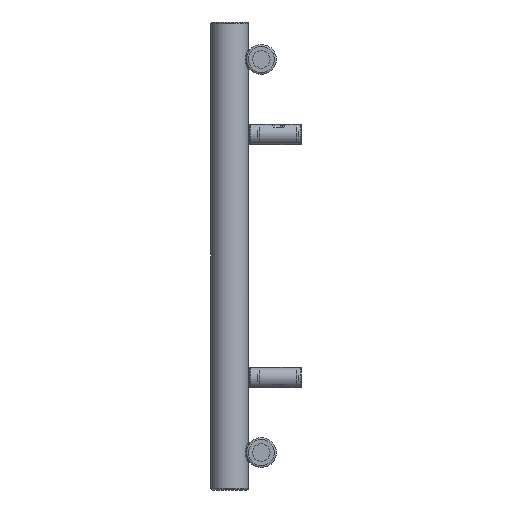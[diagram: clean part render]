
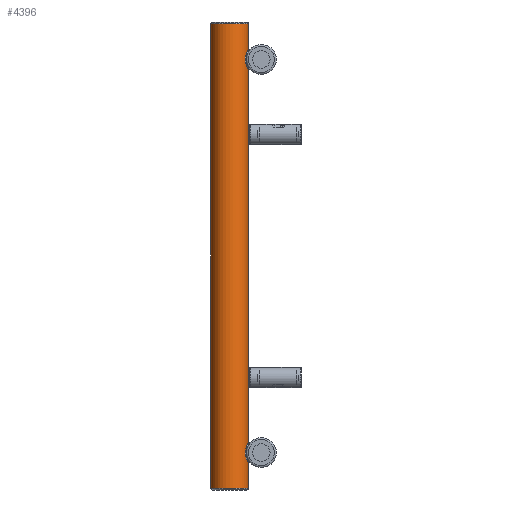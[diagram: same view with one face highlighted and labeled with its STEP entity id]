
A CAD part, left-side view. The second image highlights one B-rep face of the part: STEP entity #4396.
In plain terms, the highlighted cylindrical face has radius 20 mm (diameter 40 mm), a full revolution.
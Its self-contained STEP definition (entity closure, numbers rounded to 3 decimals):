
#336=FACE_BOUND('',#1059,.T.);
#337=FACE_BOUND('',#1060,.T.);
#394=LINE('',#13302,#492);
#492=VECTOR('',#5558,20.);
#590=CYLINDRICAL_SURFACE('',#4788,20.);
#678=FACE_OUTER_BOUND('',#1058,.T.);
#1058=EDGE_LOOP('',(#3283,#3284,#3285,#3286,#3287));
#1059=EDGE_LOOP('',(#3288));
#1060=EDGE_LOOP('',(#3289));
#1427=B_SPLINE_CURVE_WITH_KNOTS('',3,(#13277,#13278,#13279,#13280,#13281,
#13282,#13283,#13284,#13285,#13286,#13287,#13288,#13289,#13290,#13291,#13292,
#13293,#13294,#13295,#13296),.UNSPECIFIED.,.T.,.F.,(4,1,1,1,1,1,1,1,1,1,
1,1,1,1,1,1,1,4),(-5.132,-4.765,-4.399,
-4.032,-3.666,-3.421,-3.177,
-2.933,-2.688,-2.199,-1.955,-1.711,
-1.466,-1.222,-0.978,-0.733,
-0.367,0.),.UNSPECIFIED.);
#1428=B_SPLINE_CURVE_WITH_KNOTS('',3,(#13306,#13307,#13308,#13309,#13310,
#13311,#13312,#13313,#13314,#13315,#13316,#13317,#13318,#13319,#13320,#13321,
#13322,#13323,#13324,#13325,#13326,#13327,#13328,#13329,#13330,#13331),
 .UNSPECIFIED.,.T.,.F.,(4,1,1,1,1,1,1,1,1,1,1,1,1,1,1,1,1,1,1,1,1,1,1,4),
(-5.132,-4.765,-4.582,-4.399,
-4.338,-4.277,-4.154,-3.91,
-3.788,-3.666,-3.421,-3.177,
-2.933,-2.444,-2.199,-2.077,
-1.955,-1.711,-1.466,-1.283,-1.1,
-0.733,-0.367,0.),.UNSPECIFIED.);
#1569=CIRCLE('',#4789,20.);
#1570=CIRCLE('',#4790,20.);
#1571=CIRCLE('',#4791,20.);
#2013=VERTEX_POINT('',#13275);
#2014=VERTEX_POINT('',#13298);
#2015=VERTEX_POINT('',#13299);
#2016=VERTEX_POINT('',#13301);
#2017=VERTEX_POINT('',#13305);
#2508=EDGE_CURVE('',#2013,#2013,#1427,.T.);
#2509=EDGE_CURVE('',#2014,#2015,#1569,.T.);
#2510=EDGE_CURVE('',#2014,#2016,#394,.T.);
#2511=EDGE_CURVE('',#2016,#2016,#1570,.T.);
#2512=EDGE_CURVE('',#2015,#2014,#1571,.T.);
#2513=EDGE_CURVE('',#2017,#2017,#1428,.T.);
#3283=ORIENTED_EDGE('',*,*,#2509,.F.);
#3284=ORIENTED_EDGE('',*,*,#2510,.T.);
#3285=ORIENTED_EDGE('',*,*,#2511,.F.);
#3286=ORIENTED_EDGE('',*,*,#2510,.F.);
#3287=ORIENTED_EDGE('',*,*,#2512,.F.);
#3288=ORIENTED_EDGE('',*,*,#2513,.F.);
#3289=ORIENTED_EDGE('',*,*,#2508,.F.);
#4396=ADVANCED_FACE('',(#678,#336,#337),#590,.T.);
#4788=AXIS2_PLACEMENT_3D('',#13297,#5554,#5555);
#4789=AXIS2_PLACEMENT_3D('',#13300,#5556,#5557);
#4790=AXIS2_PLACEMENT_3D('',#13303,#5559,#5560);
#4791=AXIS2_PLACEMENT_3D('',#13304,#5561,#5562);
#5554=DIRECTION('center_axis',(0.,0.,1.));
#5555=DIRECTION('ref_axis',(-1.,0.,0.));
#5556=DIRECTION('center_axis',(0.,0.,1.));
#5557=DIRECTION('ref_axis',(-1.,0.,0.));
#5558=DIRECTION('',(0.,0.,-1.));
#5559=DIRECTION('center_axis',(0.,0.,-1.));
#5560=DIRECTION('ref_axis',(-1.,0.,0.));
#5561=DIRECTION('center_axis',(0.,0.,1.));
#5562=DIRECTION('ref_axis',(-1.,0.,0.));
#13275=CARTESIAN_POINT('',(-1430.,-20.,50.1));
#13277=CARTESIAN_POINT('Ctrl Pts',(-1430.,-20.,50.1));
#13278=CARTESIAN_POINT('Ctrl Pts',(-1431.611,-20.,50.1));
#13279=CARTESIAN_POINT('Ctrl Pts',(-1434.835,-19.6,
49.586));
#13280=CARTESIAN_POINT('Ctrl Pts',(-1438.863,-18.052,
47.028));
#13281=CARTESIAN_POINT('Ctrl Pts',(-1441.079,-16.659,
42.599));
#13282=CARTESIAN_POINT('Ctrl Pts',(-1441.073,-16.66,
37.981));
#13283=CARTESIAN_POINT('Ctrl Pts',(-1439.649,-17.553,
34.43));
#13284=CARTESIAN_POINT('Ctrl Pts',(-1437.534,-18.59,
32.083));
#13285=CARTESIAN_POINT('Ctrl Pts',(-1434.761,-19.502,
30.58));
#13286=CARTESIAN_POINT('Ctrl Pts',(-1430.581,-20.202,
29.64));
#13287=CARTESIAN_POINT('Ctrl Pts',(-1426.164,-19.82,
30.087));
#13288=CARTESIAN_POINT('Ctrl Pts',(-1422.465,-18.59,
32.081));
#13289=CARTESIAN_POINT('Ctrl Pts',(-1420.351,-17.555,
34.431));
#13290=CARTESIAN_POINT('Ctrl Pts',(-1419.13,-16.793,
37.475));
#13291=CARTESIAN_POINT('Ctrl Pts',(-1418.885,-16.626,
40.853));
#13292=CARTESIAN_POINT('Ctrl Pts',(-1419.62,-17.113,
44.117));
#13293=CARTESIAN_POINT('Ctrl Pts',(-1421.588,-18.224,
47.308));
#13294=CARTESIAN_POINT('Ctrl Pts',(-1425.162,-19.597,
49.588));
#13295=CARTESIAN_POINT('Ctrl Pts',(-1428.389,-20.,50.1));
#13296=CARTESIAN_POINT('Ctrl Pts',(-1430.,-20.,50.1));
#13297=CARTESIAN_POINT('Origin',(-1430.,0.,0.));
#13298=CARTESIAN_POINT('',(-1410.,0.,498.));
#13299=CARTESIAN_POINT('',(-1450.,0.,498.));
#13300=CARTESIAN_POINT('Origin',(-1430.,0.,498.));
#13301=CARTESIAN_POINT('',(-1410.,0.,2.));
#13302=CARTESIAN_POINT('',(-1410.,0.,0.));
#13303=CARTESIAN_POINT('Origin',(-1430.,0.,2.));
#13304=CARTESIAN_POINT('Origin',(-1430.,0.,498.));
#13305=CARTESIAN_POINT('',(-1430.,-20.,470.1));
#13306=CARTESIAN_POINT('Ctrl Pts',(-1430.,-20.,470.1));
#13307=CARTESIAN_POINT('Ctrl Pts',(-1431.611,-20.,470.1));
#13308=CARTESIAN_POINT('Ctrl Pts',(-1434.03,-19.694,
469.71));
#13309=CARTESIAN_POINT('Ctrl Pts',(-1436.848,-18.829,468.31));
#13310=CARTESIAN_POINT('Ctrl Pts',(-1438.236,-18.238,467.126));
#13311=CARTESIAN_POINT('Ctrl Pts',(-1439.064,-17.83,
466.115));
#13312=CARTESIAN_POINT('Ctrl Pts',(-1439.657,-17.519,
465.244));
#13313=CARTESIAN_POINT('Ctrl Pts',(-1440.501,-17.033,
463.572));
#13314=CARTESIAN_POINT('Ctrl Pts',(-1440.993,-16.706,
461.396));
#13315=CARTESIAN_POINT('Ctrl Pts',(-1440.992,-16.708,
459.164));
#13316=CARTESIAN_POINT('Ctrl Pts',(-1440.667,-16.92,456.968));
#13317=CARTESIAN_POINT('Ctrl Pts',(-1439.648,-17.554,
454.431));
#13318=CARTESIAN_POINT('Ctrl Pts',(-1437.535,-18.59,
452.082));
#13319=CARTESIAN_POINT('Ctrl Pts',(-1433.836,-19.82,
450.088));
#13320=CARTESIAN_POINT('Ctrl Pts',(-1429.418,-20.204,
449.642));
#13321=CARTESIAN_POINT('Ctrl Pts',(-1425.761,-19.589,
450.463));
#13322=CARTESIAN_POINT('Ctrl Pts',(-1423.852,-19.049,
451.333));
#13323=CARTESIAN_POINT('Ctrl Pts',(-1422.114,-18.417,
452.474));
#13324=CARTESIAN_POINT('Ctrl Pts',(-1420.351,-17.553,
454.429));
#13325=CARTESIAN_POINT('Ctrl Pts',(-1419.231,-16.855,
457.221));
#13326=CARTESIAN_POINT('Ctrl Pts',(-1418.926,-16.654,
459.999));
#13327=CARTESIAN_POINT('Ctrl Pts',(-1419.29,-16.894,
463.337));
#13328=CARTESIAN_POINT('Ctrl Pts',(-1421.139,-18.049,
467.026));
#13329=CARTESIAN_POINT('Ctrl Pts',(-1425.165,-19.601,
469.585));
#13330=CARTESIAN_POINT('Ctrl Pts',(-1428.389,-20.,470.1));
#13331=CARTESIAN_POINT('Ctrl Pts',(-1430.,-20.,470.1));
